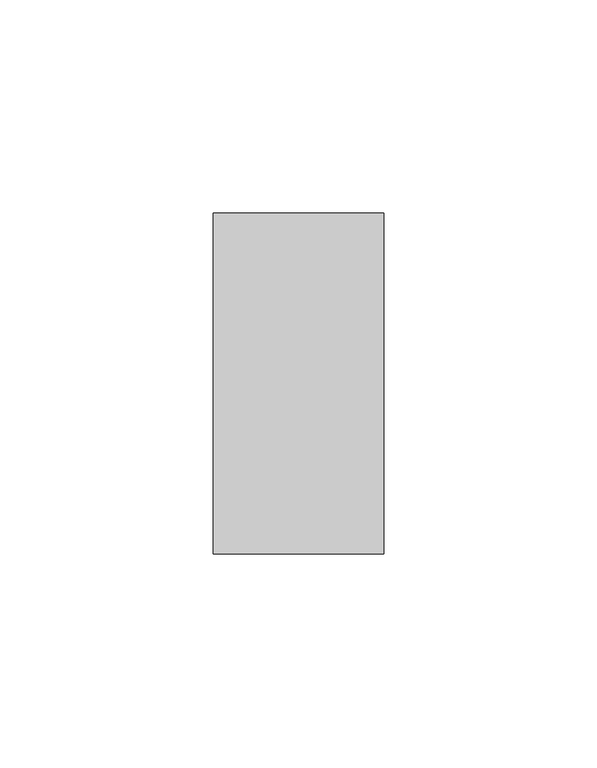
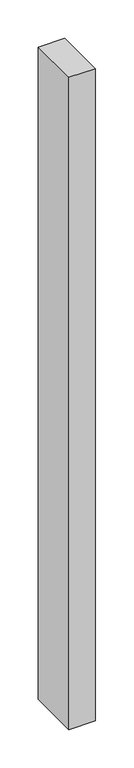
"""IFC4 building model written with IfcOpenShell, lengths in millimetres: member geometry, Obdélníková příčel : VERTI PANORAMA - vertikální."""

from ifc_helpers import new_model, si_unit, frame, origin, place, context, project, spatial, polyline, outline, extrude, source, transform, mapped, element, save


def member_b8b3bd2f(model_context):
    return source(origin(), model_context, "Body", "SweptSolid", [
        extrude(outline(polyline([(-40.0, 40.0), (0.0, 40.0), (0.0, -40.0), (-40.0, -40.0), (-40.0, 40.0)])), frame((0.0, 0.0, -1040.0), z_axis=(0.0, 0.0, 1.0), x_axis=(1.0, 0.0, 0.0)), (0.0, 0.0, 1.0), 1040.0),
    ])


if __name__ == "__main__":
    model = new_model("IFC4")
    model_context = context("Model", 3, world=origin())
    ifc_project = project(units=[si_unit("LENGTHUNIT", "METRE", prefix="MILLI")], contexts=[model_context])
    site = spatial("IfcSite", under=ifc_project)
    building = spatial("IfcBuilding", under=site)
    placement = place(None, origin())
    member_shape = member_b8b3bd2f(model_context)
    element("IfcMember", 1, ObjectType="Obdélníková příčel : VERTI PANORAMA - vertikální", at=placement, inside=building, context=model_context, shape_type="MappedRepresentation", body=[
        mapped(member_shape, transform((0.0, 0.0, 0.0), x_axis=(1.0, 0.0, 0.0), y_axis=(0.0, 1.0, 0.0), z_axis=(0.0, 0.0, 1.0))),
    ])
    save(model, "model.ifc")
